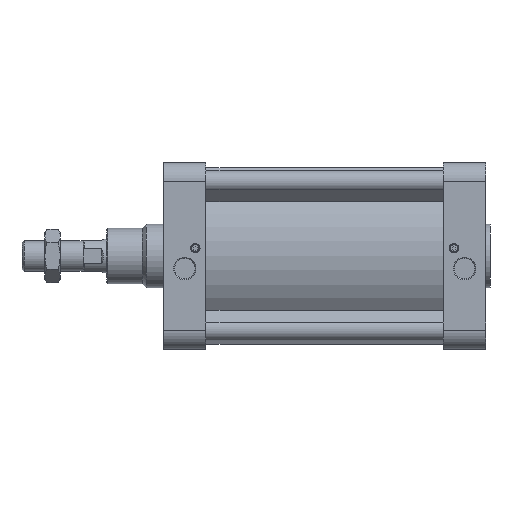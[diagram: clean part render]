
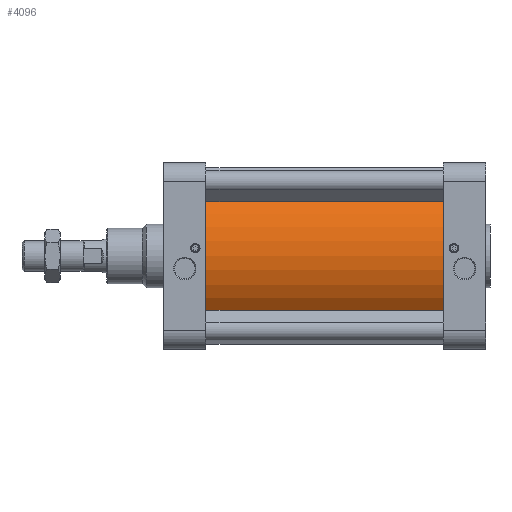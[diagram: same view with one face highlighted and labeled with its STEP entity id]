
A CAD part, top view. The second image highlights one B-rep face of the part: STEP entity #4096.
In plain terms, the highlighted cylindrical face has radius 104 mm (diameter 208 mm), a partial arc.
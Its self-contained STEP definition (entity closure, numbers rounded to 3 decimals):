
#338=LINE('',#6522,#720);
#341=LINE('',#6528,#723);
#720=VECTOR('',#5201,1000.);
#723=VECTOR('',#5206,1000.);
#881=CYLINDRICAL_SURFACE('',#4452,104.);
#1321=ORIENTED_EDGE('',*,*,#2290,.T.);
#1322=ORIENTED_EDGE('',*,*,#2331,.F.);
#1323=ORIENTED_EDGE('',*,*,#2332,.F.);
#1324=ORIENTED_EDGE('',*,*,#2328,.T.);
#2290=EDGE_CURVE('',#2809,#2808,#3060,.T.);
#2328=EDGE_CURVE('',#2834,#2809,#338,.T.);
#2331=EDGE_CURVE('',#2836,#2808,#341,.T.);
#2332=EDGE_CURVE('',#2834,#2836,#3068,.T.);
#2808=VERTEX_POINT('',#6444);
#2809=VERTEX_POINT('',#6446);
#2834=VERTEX_POINT('',#6523);
#2836=VERTEX_POINT('',#6529);
#3060=CIRCLE('',#4430,104.);
#3068=CIRCLE('',#4453,104.);
#3257=EDGE_LOOP('',(#1321,#1322,#1323,#1324));
#3597=FACE_BOUND('',#3257,.T.);
#4096=ADVANCED_FACE('',(#3597),#881,.T.);
#4430=AXIS2_PLACEMENT_3D('',#6445,#5127,#5128);
#4452=AXIS2_PLACEMENT_3D('',#6527,#5204,#5205);
#4453=AXIS2_PLACEMENT_3D('',#6530,#5207,#5208);
#5127=DIRECTION('',(1.,0.,0.));
#5128=DIRECTION('',(0.,0.,-1.));
#5201=DIRECTION('',(-1.,0.,0.));
#5204=DIRECTION('',(-1.,0.,0.));
#5205=DIRECTION('',(0.,0.,1.));
#5206=DIRECTION('',(-1.,0.,0.));
#5207=DIRECTION('',(1.,0.,0.));
#5208=DIRECTION('',(0.,0.,-1.));
#6444=CARTESIAN_POINT('',(50.,-63.969,82.));
#6445=CARTESIAN_POINT('',(50.,0.,0.));
#6446=CARTESIAN_POINT('',(50.,63.969,82.));
#6522=CARTESIAN_POINT('',(330.,63.969,82.));
#6523=CARTESIAN_POINT('',(330.,63.969,82.));
#6527=CARTESIAN_POINT('',(330.,0.,0.));
#6528=CARTESIAN_POINT('',(330.,-63.969,82.));
#6529=CARTESIAN_POINT('',(330.,-63.969,82.));
#6530=CARTESIAN_POINT('',(330.,0.,0.));
